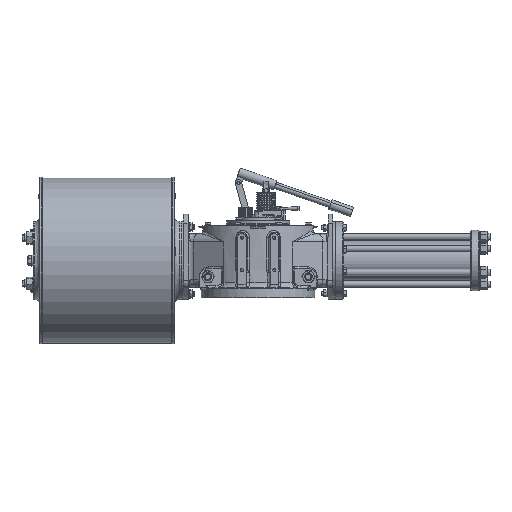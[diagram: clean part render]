
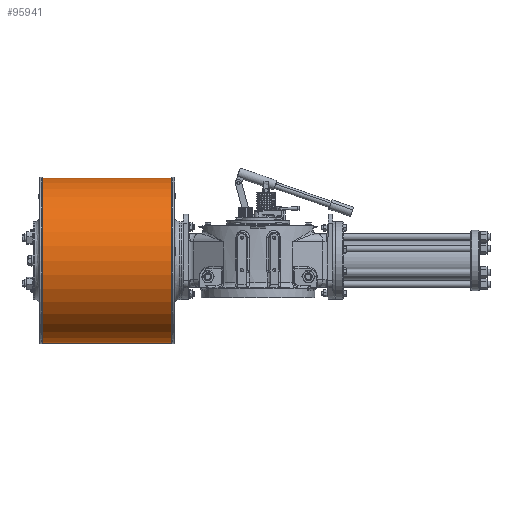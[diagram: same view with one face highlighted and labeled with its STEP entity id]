
A CAD part, front view. The second image highlights one B-rep face of the part: STEP entity #95941.
In plain terms, the highlighted cylindrical face has radius 254 mm (diameter 508 mm), a partial arc.
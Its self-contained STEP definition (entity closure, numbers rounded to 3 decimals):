
#3172 = CYLINDRICAL_SURFACE ( 'NONE', #26061, 254. ) ;
#10482 = CARTESIAN_POINT ( 'NONE',  ( -265.5, 108., -171.5 ) ) ;
#11592 = CARTESIAN_POINT ( 'NONE',  ( -665.5, 108., 336.5 ) ) ;
#12100 = LINE ( 'NONE', #88813, #33289 ) ;
#14849 = DIRECTION ( 'NONE',  ( 1., 0., 0. ) ) ;
#20363 = CARTESIAN_POINT ( 'NONE',  ( -265.5, 108., -171.5 ) ) ;
#21337 = EDGE_CURVE ( 'NONE', #41067, #78818, #33562, .T. ) ;
#26061 = AXIS2_PLACEMENT_3D ( 'NONE', #70349, #31941, #55161 ) ;
#28624 = DIRECTION ( 'NONE',  ( 0., 0., 1. ) ) ;
#29214 = DIRECTION ( 'NONE',  ( -1., 0., 0. ) ) ;
#30674 = AXIS2_PLACEMENT_3D ( 'NONE', #40815, #71612, #28624 ) ;
#31941 = DIRECTION ( 'NONE',  ( -1., 0., 0. ) ) ;
#32315 = CIRCLE ( 'NONE', #30674, 254. ) ;
#33289 = VECTOR ( 'NONE', #29214, 1000. ) ;
#33562 = LINE ( 'NONE', #20363, #38583 ) ;
#36072 = ORIENTED_EDGE ( 'NONE', *, *, #72382, .T. ) ;
#38583 = VECTOR ( 'NONE', #51181, 1000. ) ;
#40815 = CARTESIAN_POINT ( 'NONE',  ( -265.5, 108., 82.5 ) ) ;
#41067 = VERTEX_POINT ( 'NONE', #10482 ) ;
#42331 = EDGE_CURVE ( 'NONE', #72273, #78818, #60271, .T. ) ;
#44926 = VERTEX_POINT ( 'NONE', #93025 ) ;
#51181 = DIRECTION ( 'NONE',  ( -1., 0., 0. ) ) ;
#53987 = EDGE_LOOP ( 'NONE', ( #70897, #57940, #36072, #61185 ) ) ;
#55161 = DIRECTION ( 'NONE',  ( 0., 0., 1. ) ) ;
#55429 = AXIS2_PLACEMENT_3D ( 'NONE', #70894, #14849, #68911 ) ;
#57940 = ORIENTED_EDGE ( 'NONE', *, *, #68933, .T. ) ;
#60271 = CIRCLE ( 'NONE', #55429, 254. ) ;
#61185 = ORIENTED_EDGE ( 'NONE', *, *, #42331, .T. ) ;
#68842 = CARTESIAN_POINT ( 'NONE',  ( -665.5, 108., -171.5 ) ) ;
#68911 = DIRECTION ( 'NONE',  ( 0., 0., 1. ) ) ;
#68933 = EDGE_CURVE ( 'NONE', #41067, #44926, #32315, .T. ) ;
#70349 = CARTESIAN_POINT ( 'NONE',  ( -265.5, 108., 82.5 ) ) ;
#70894 = CARTESIAN_POINT ( 'NONE',  ( -665.5, 108., 82.5 ) ) ;
#70897 = ORIENTED_EDGE ( 'NONE', *, *, #21337, .F. ) ;
#71612 = DIRECTION ( 'NONE',  ( -1., 0., 0. ) ) ;
#72273 = VERTEX_POINT ( 'NONE', #11592 ) ;
#72331 = FACE_OUTER_BOUND ( 'NONE', #53987, .T. ) ;
#72382 = EDGE_CURVE ( 'NONE', #44926, #72273, #12100, .T. ) ;
#78818 = VERTEX_POINT ( 'NONE', #68842 ) ;
#88813 = CARTESIAN_POINT ( 'NONE',  ( -265.5, 108., 336.5 ) ) ;
#93025 = CARTESIAN_POINT ( 'NONE',  ( -265.5, 108., 336.5 ) ) ;
#95941 = ADVANCED_FACE ( 'NONE', ( #72331 ), #3172, .T. ) ;
